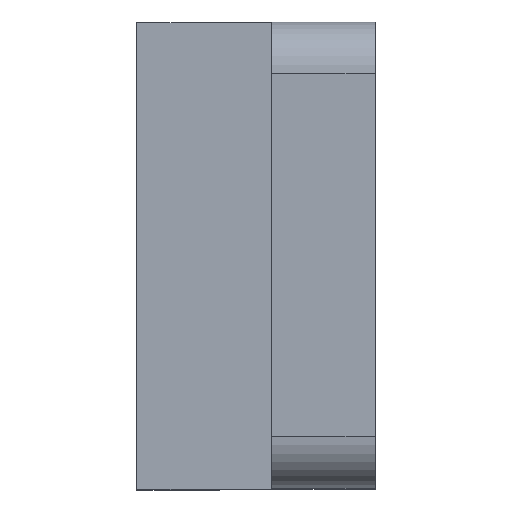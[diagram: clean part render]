
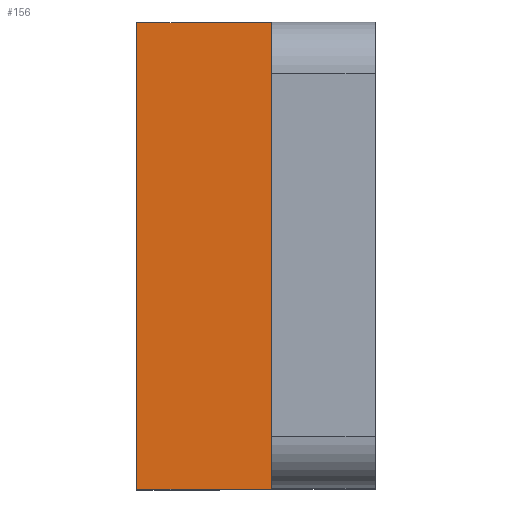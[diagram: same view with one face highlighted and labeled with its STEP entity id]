
A CAD part, top view. The second image highlights one B-rep face of the part: STEP entity #156.
In plain terms, the highlighted planar face has unit normal (0, 0, 1).
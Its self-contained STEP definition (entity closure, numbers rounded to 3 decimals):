
#156=ADVANCED_FACE('',(#190),#180,.T.);
#180=PLANE('',#497);
#190=FACE_OUTER_BOUND('',#198,.T.);
#198=EDGE_LOOP('',(#242,#243,#244,#245));
#242=ORIENTED_EDGE('',*,*,#370,.F.);
#243=ORIENTED_EDGE('',*,*,#371,.F.);
#244=ORIENTED_EDGE('',*,*,#372,.F.);
#245=ORIENTED_EDGE('',*,*,#373,.F.);
#334=VERTEX_POINT('',#671);
#335=VERTEX_POINT('',#672);
#336=VERTEX_POINT('',#674);
#337=VERTEX_POINT('',#676);
#370=EDGE_CURVE('',#334,#335,#416,.T.);
#371=EDGE_CURVE('',#336,#334,#417,.T.);
#372=EDGE_CURVE('',#337,#336,#418,.T.);
#373=EDGE_CURVE('',#335,#337,#419,.T.);
#416=LINE('',#670,#442);
#417=LINE('',#673,#443);
#418=LINE('',#675,#444);
#419=LINE('',#677,#445);
#442=VECTOR('',#551,1.);
#443=VECTOR('',#552,1.);
#444=VECTOR('',#553,1.);
#445=VECTOR('',#554,1.);
#497=AXIS2_PLACEMENT_3D('',#678,#555,#556);
#551=DIRECTION('',(0.,-1.,0.));
#552=DIRECTION('',(1.,0.,0.));
#553=DIRECTION('',(0.,1.,0.));
#554=DIRECTION('',(-1.,0.,0.));
#555=DIRECTION('',(0.,0.,1.));
#556=DIRECTION('',(1.,0.,0.));
#670=CARTESIAN_POINT('',(13.,45.,53.));
#671=CARTESIAN_POINT('',(13.,45.,53.));
#672=CARTESIAN_POINT('',(13.,0.,53.));
#673=CARTESIAN_POINT('',(4.,45.,53.));
#674=CARTESIAN_POINT('',(0.,45.,53.));
#675=CARTESIAN_POINT('',(0.,22.5,53.));
#676=CARTESIAN_POINT('',(0.,0.,53.));
#677=CARTESIAN_POINT('',(4.,0.,53.));
#678=CARTESIAN_POINT('',(4.,22.5,53.));
